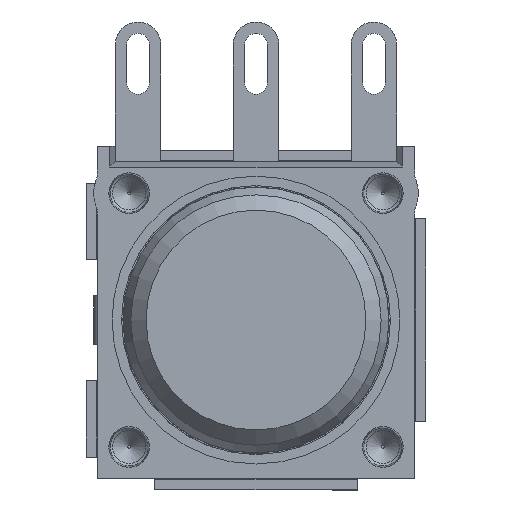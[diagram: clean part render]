
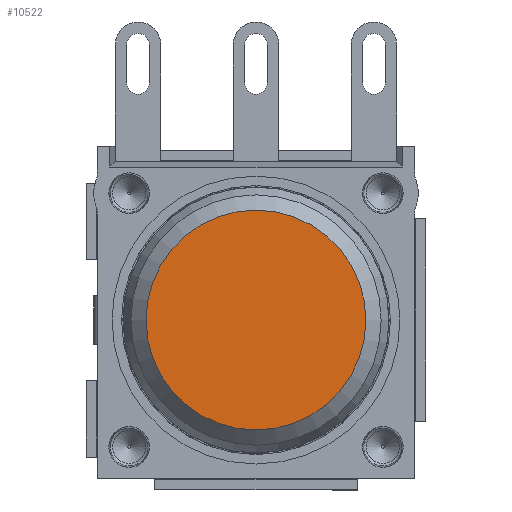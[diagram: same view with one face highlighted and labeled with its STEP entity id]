
A CAD part, left-side view. The second image highlights one B-rep face of the part: STEP entity #10522.
In plain terms, the highlighted planar face has unit normal (-1, 0, 0) as drawn and (0, 0, 1) by its records, which use the part's own axes.
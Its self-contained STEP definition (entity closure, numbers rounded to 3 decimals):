
#3839=ORIENTED_EDGE('',*,*,#5908,.T.);
#5908=EDGE_CURVE('',#7098,#7098,#7810,.T.);
#7098=VERTEX_POINT('',#17664);
#7810=CIRCLE('',#11900,4.334);
#8485=EDGE_LOOP('',(#3839));
#9375=FACE_BOUND('',#8485,.T.);
#10029=PLANE('',#11899);
#10522=ADVANCED_FACE('',(#9375),#10029,.T.);
#11899=AXIS2_PLACEMENT_3D('',#17662,#14196,#14197);
#11900=AXIS2_PLACEMENT_3D('',#17663,#14198,#14199);
#14196=DIRECTION('',(0.,0.,1.));
#14197=DIRECTION('',(1.,0.,0.));
#14198=DIRECTION('',(0.,0.,1.));
#14199=DIRECTION('',(1.,0.,0.));
#17662=CARTESIAN_POINT('',(0.,0.,1.4));
#17663=CARTESIAN_POINT('',(0.,0.,1.4));
#17664=CARTESIAN_POINT('',(4.334,0.,1.4));
